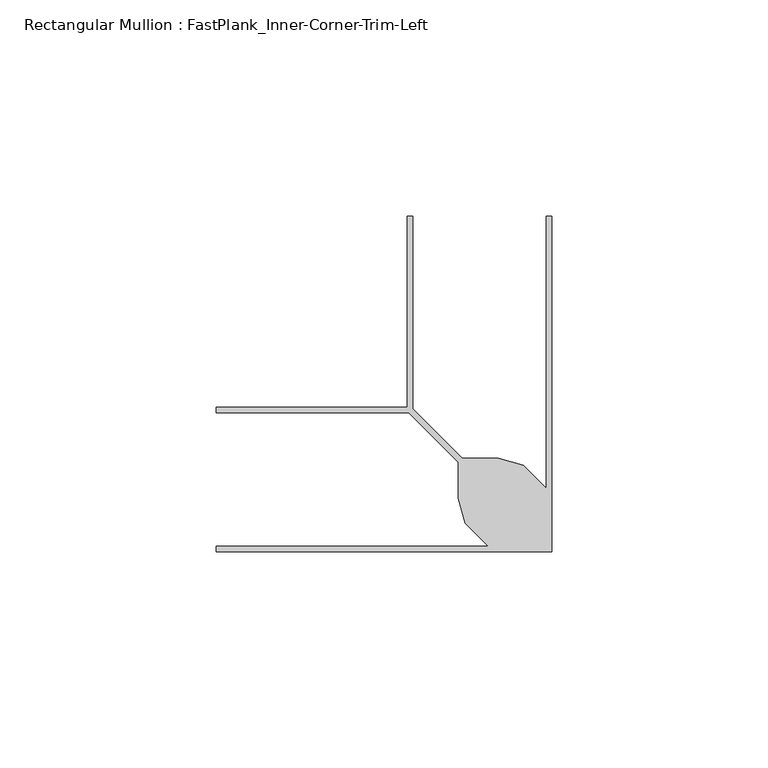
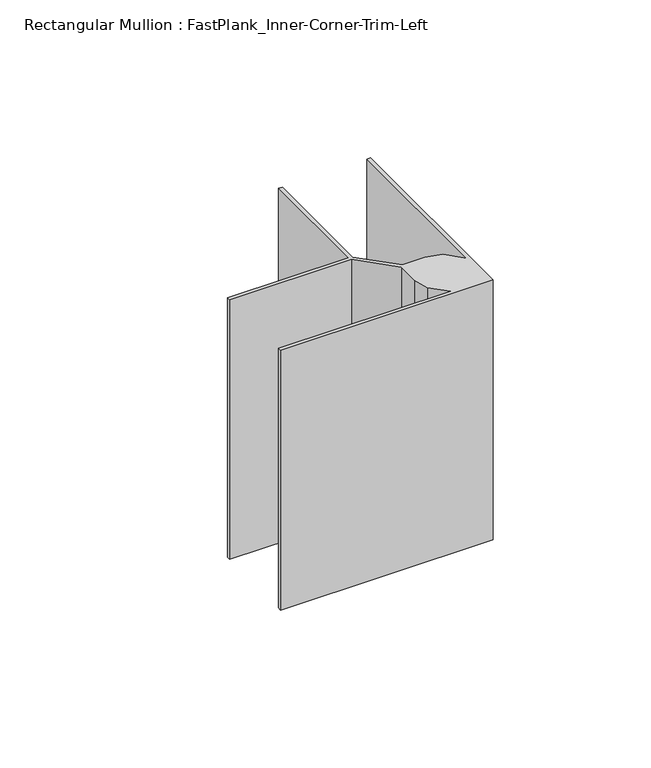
"""IFC4 building model written with IfcOpenShell, lengths in millimetres: member geometry, Rectangular Mullion : FastPlank_Inner-Corner-Trim-Left."""

from ifc_helpers import new_model, si_unit, frame, origin, place, context, project, spatial, polyline, outline, extrude, source, transform, mapped, element, save


def rectangular_mullion_fastplank_inner_corner_trim_left_50cadcd8(model_context):
    return source(origin(), model_context, "Body", "SweptSolid", [
        extrude(outline(polyline([(0.0, 65.8344405), (0.0, -11.8654041), (-77.6998446, -11.8654041), (-77.6998446, -10.5654067), (-14.7093055, -10.5654067), (-20.0837776, -5.1909347), (-21.6227418, 0.5525579), (-21.6227418, 8.8381007), (-33.1191726, 20.3345315), (-77.6998446, 20.3345315), (-77.6998446, 21.6345289), (-33.499933, 21.6345289), (-33.499933, 65.8344405), (-32.1999356, 65.8344405), (-32.1999356, 21.2537685), (-20.7035048, 9.7573377), (-12.417962, 9.7573377), (-6.6744694, 8.2183735), (-1.2999974, 2.8439015), (-1.2999974, 65.8344405), (0.0, 65.8344405)])), frame((0.0, 0.0, -100.2999811), z_axis=(0.0, 0.0, 1.0), x_axis=(1.0, 0.0, 0.0)), (0.0, 0.0, 1.0), 100.2999811),
    ])


if __name__ == "__main__":
    model = new_model("IFC4")
    model_context = context("Model", 3, world=origin())
    ifc_project = project(units=[si_unit("LENGTHUNIT", "METRE", prefix="MILLI")], contexts=[model_context])
    site = spatial("IfcSite", under=ifc_project)
    building = spatial("IfcBuilding", under=site)
    placement = place(None, origin())
    rectangular_mullion_fastplank_inner_corner_trim_left_shape = rectangular_mullion_fastplank_inner_corner_trim_left_50cadcd8(model_context)
    element("IfcMember", 1, ObjectType="Rectangular Mullion : FastPlank_Inner-Corner-Trim-Left", at=placement, inside=building, context=model_context, shape_type="MappedRepresentation", body=[
        mapped(rectangular_mullion_fastplank_inner_corner_trim_left_shape, transform((0.0, 0.0, 0.0), x_axis=(1.0, 0.0, 0.0), y_axis=(0.0, 1.0, 0.0), z_axis=(0.0, 0.0, 1.0))),
    ])
    save(model, "model.ifc")
